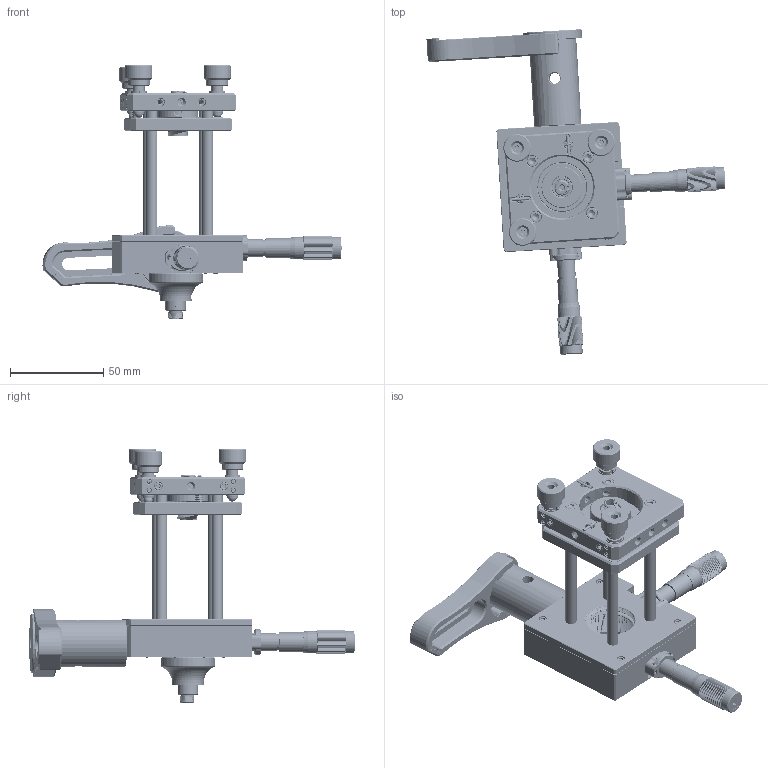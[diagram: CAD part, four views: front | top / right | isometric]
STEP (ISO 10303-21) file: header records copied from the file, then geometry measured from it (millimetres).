
FILE_DESCRIPTION((''),'2;1');
FILE_NAME('OFBC_0001_ASM','2026-07-07T17:24:05',('Administrator'),(''),'CREO PARAMETRIC BY PTC INC, 2025102','CREO PARAMETRIC BY PTC INC, 2025102','');
FILE_SCHEMA(('CONFIG_CONTROL_DESIGN'));
Products named in the file (82): PEC11-SM1-A1_238_1; PEC11-SM1_ASM_27_ASM_1_ASM; PEC11-SM1_ASM_ASM_1_ASM; CXY1E_M_A1_1_2; CXY1E_M_A2_1_2; CXY1E_M_A3_1_2; CXY1E_M_A4_1_2; AXLE_1_6X6_1_2; SPRING_3X13_1_2; AXLE_1_6X8_1_2; SPACER_6X1_1_2; BALL_3_1_2; M2X6_HM_1_2; M2X5_HS_1_2; SPRING_3X18_1_2; AXLE_3X11_1_2; M2X4_HS_1_2; CXY1E_M_A7_1_2; SM13_A1_1_2; SM13_A2_1_2; SM13_A6_1_2; SM13_A3_1_2; SM13_A4_1_2; SM25_A5_1_2; SM13_ASM_1_ASM_2_ASM; CXY1E_M_ASM_2_ASM_2_ASM; CXY1E_M_ASM_ASM_2_ASM; PCM-S_76_1; CFP2-S_1; AXIS_1_6X6_1_1; SPRING_4_5X17_1_1; M4X3_HS_1_1; AXIS_1_6X9_1_1; M4X3_HSJ_1_1; MC-S1_A2_3_1; M3X2_HS_1_1; M4X3_HS_2_1_1; BALL_3_1_1_1; MC-S1_A3_1_1; M3X2_HS_2_1_1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
Assembly tree (148 placements, depth 5):
  OFBC_0001_ASM
    PEC11-SM1_ASM_ASM_1_ASM
      PEC11-SM1_ASM_27_ASM_1_ASM
        PEC11-SM1-A1_238_1
    CXY1E_M_ASM_ASM_2_ASM
      CXY1E_M_ASM_2_ASM_2_ASM
        CXY1E_M_A1_1_2
        CXY1E_M_A2_1_2
        CXY1E_M_A3_1_2
        CXY1E_M_A4_1_2
        AXLE_1_6X6_1_2  x6
        SPRING_3X13_1_2  x6
        AXLE_1_6X8_1_2  x20
        SPACER_6X1_1_2  x2
        BALL_3_1_2  x6
        M2X6_HM_1_2  x10
        M2X5_HS_1_2  x8
        SPRING_3X18_1_2  x4
        AXLE_3X11_1_2  x2
        M2X4_HS_1_2  x6
        CXY1E_M_A7_1_2  x2
        SM13_ASM_1_ASM_2_ASM  x2
          SM13_A1_1_2
          SM13_A2_1_2
          SM13_A6_1_2
          SM13_A3_1_2
          SM13_A4_1_2
          SM25_A5_1_2
    PCM-S_76_1  x4
    CFP2-S_1
    MC-T1_ASM_ASM_1_ASM
      MC-S1_ASM_2_ASM_1_ASM
        MC-S1_ASM_ASM_10_ASM_1_ASM
          AXIS_1_6X6_1_1
          SPRING_4_5X17_1_1
          M4X3_HS_1_1
          AXIS_1_6X9_1_1
          M4X3_HSJ_1_1
          MC-S1_A2_3_1
          M3X2_HS_1_1
          M4X3_HS_2_1_1
          BALL_3_1_1_1
          MC-S1_A3_1_1
          M3X2_HS_2_1_1
          MC-S1_A1_2_1
          M4X6_HS_1_1
          MC-S1_A3_2_1_1
          AXIS_1_6X6_3_1_1
          PLS-G25_A2_3_1
          AXIS_1_6X6_4_1_1
          SPRING_4_5X17_2_1_1
          AXIS_1_6X6_2_1_1
          M3X2_HS_3_1_1
          BALL_3_2_1_1
          SPACER_6X1_1_1_1
          PLS-G25_A2_2_2_1
          MC-S1_A3_3_1_1
          M3X2_HS_4_1_1
          M3X2_HS_5_1_1
          BALL_3_3_1_1
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Bounding box: 160.33 x 174.55 x 136.66 mm (x, y, z)
Volume: 159437.7 mm3; surface area: 115556.5 mm2
Topology: 136 solids, 152 shells, 7033 faces, 19210 edges, 12385 vertices
Faces by surface type: cylinder 2805, plane 1776, bspline 1450, cone 808, torus 68, extrusion 66, sphere 60
Entity records: 390217 total; most frequent: CARTESIAN_POINT 270532, ORIENTED_EDGE 27900, DIRECTION 19542, EDGE_CURVE 14003, VERTEX_POINT 9205, AXIS2_PLACEMENT_3D 6921, B_SPLINE_CURVE_WITH_KNOTS 5809, VECTOR 5700
